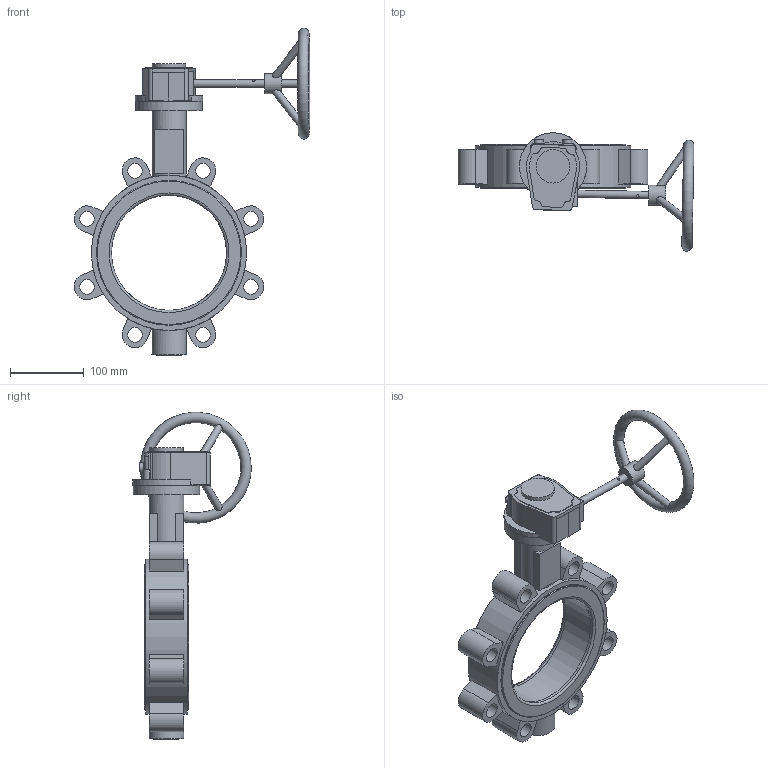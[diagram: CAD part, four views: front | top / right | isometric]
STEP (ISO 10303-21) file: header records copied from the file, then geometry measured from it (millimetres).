
FILE_DESCRIPTION (( 'STEP AP203' ), '1' );
FILE_NAME ('2502 LT型中线衬胶带销 手动头蝶阀 DN150 PN16 CD0309120.STEP', '2026-03-26T05:23:58', ( '' ), ( '' ), 'SwSTEP 2.0', 'SolidWorks 2018', '' );
FILE_SCHEMA (( 'CONFIG_CONTROL_DESIGN' ));
Length unit declared in the file: millimetre
Products named in the file (5): G12L忒雄芛 潠趙; GALA-D150-01LC-00; 2502 LT型中线衬胶带销 手动头蝶阀 DN150 PN16 CD0309120; GALA-D150-04AZC-00; DIN908 内六角旋塞 M27X2
Assembly tree (4 placements, depth 2):
  2502 LT型中线衬胶带销 手动头蝶阀 DN150 PN16 CD0309120
    GALA-D150-04AZC-00
    DIN908 内六角旋塞 M27X2
    GALA-D150-01LC-00
    G12L忒雄芛 潠趙
Bounding box: 318.86 x 160.17 x 442.39 mm (x, y, z)
Volume: 1871850.2 mm3; surface area: 349709.4 mm2
Topology: 5 solids, 10 shells, 275 faces, 689 edges, 451 vertices
Faces by surface type: plane 126, cylinder 120, cone 12, torus 9, bspline 6, sphere 2
Full cylindrical faces by diameter (mm): 4 x1, 10 x9, 12 x2, 20 x8, 23.8 x1, 27 x2, 31.6 x1, 34 x2, 45 x1, 47 x2, 90 x1, 91 x1, 155.474 x1, 164 x2, 196 x4, 210 x1
Entity records: 9725 total; most frequent: CARTESIAN_POINT 3031, DIRECTION 1252, ORIENTED_EDGE 1230, EDGE_CURVE 615, AXIS2_PLACEMENT_3D 486, VERTEX_POINT 437, EDGE_LOOP 388, FACE_OUTER_BOUND 321
